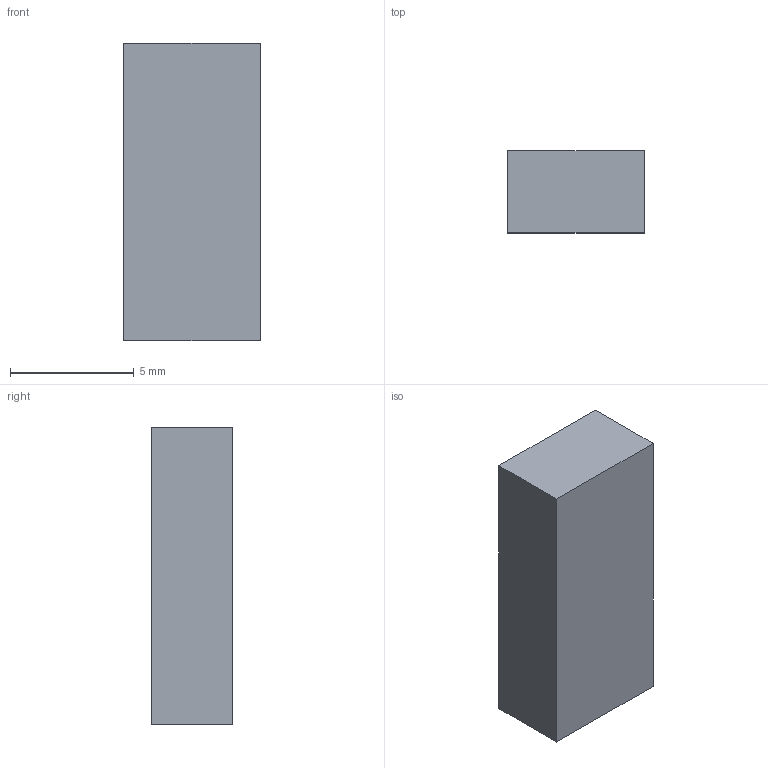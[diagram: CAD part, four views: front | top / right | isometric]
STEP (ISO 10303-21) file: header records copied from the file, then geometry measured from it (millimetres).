
FILE_DESCRIPTION(('Open CASCADE Model'),'2;1');
FILE_NAME('Open CASCADE Shape Model','2026-11-23T18:10:17',('Author'),( 'Open CASCADE'),'Open CASCADE STEP processor 8.0','build123d', 'Unknown');
FILE_SCHEMA(('AUTOMOTIVE_DESIGN { 1 0 10303 214 1 1 1 1 }'));
Length unit declared in the file: millimetre
Products named in the file (2): =>[0:1:1:2]; COMPOUND
Assembly tree (1 placements, depth 2):
  =>[0:1:1:2]
    COMPOUND
Bounding box: 5.5 x 3.3 x 12 mm (x, y, z)
Volume: 217.8 mm3; surface area: 247.5 mm2
Topology: 1 solids, 1 shells, 6 faces, 12 edges, 8 vertices
Faces by surface type: plane 6
Entity records: 340 total; most frequent: CARTESIAN_POINT 52, DIRECTION 52, LINE 36, VECTOR 36, ORIENTED_EDGE 24, PCURVE 24, DEFINITIONAL_REPRESENTATION 24, EDGE_CURVE 12
